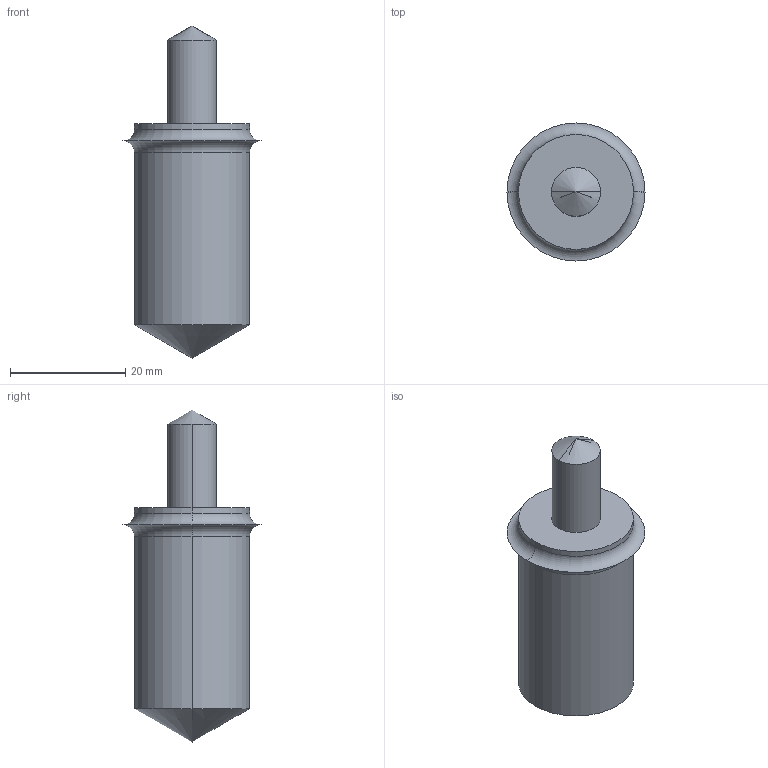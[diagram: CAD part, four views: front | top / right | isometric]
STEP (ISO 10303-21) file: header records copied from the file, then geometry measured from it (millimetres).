
FILE_DESCRIPTION (( 'STEP AP214' ), '1' );
FILE_NAME ('FP20D .STEP', '2016-02-29T23:53:37', ( '' ), ( '' ), 'SwSTEP 2.0', 'SolidWorks 2014', '' );
FILE_SCHEMA (( 'AUTOMOTIVE_DESIGN' ));
Length unit declared in the file: millimetre
Products named in the file (1): FP20D 
Bounding box: 24 x 24 x 57.73 mm (x, y, z)
Volume: 12582.1 mm3; surface area: 3444.2 mm2
Topology: 1 solids, 1 shells, 15 faces, 32 edges, 16 vertices
Faces by surface type: cylinder 6, cone 4, torus 4, plane 1
Entity records: 410 total; most frequent: DIRECTION 78, CARTESIAN_POINT 60, ORIENTED_EDGE 56, AXIS2_PLACEMENT_3D 34, EDGE_CURVE 28, CIRCLE 18, VERTEX_POINT 16, EDGE_LOOP 16
